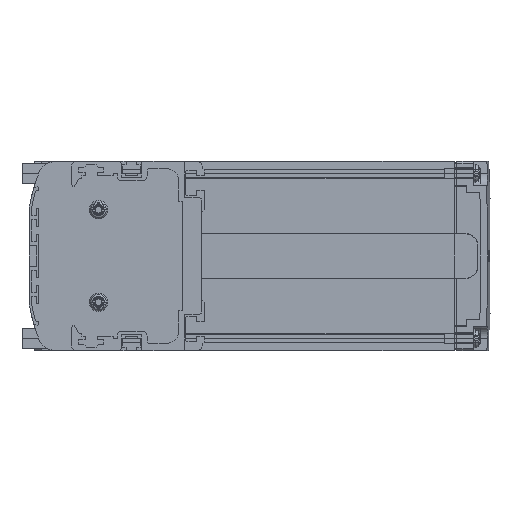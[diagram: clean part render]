
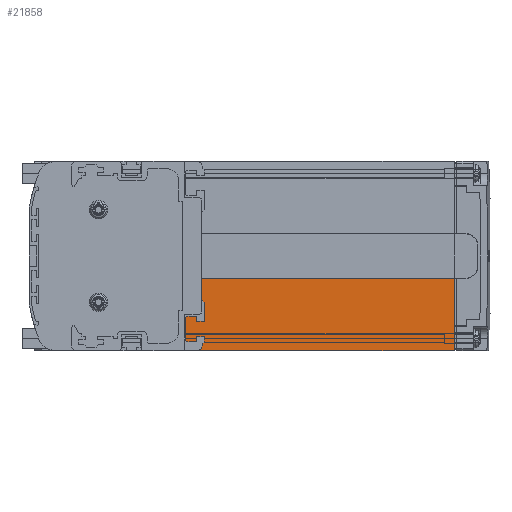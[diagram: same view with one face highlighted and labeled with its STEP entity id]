
A CAD part, left-side view. The second image highlights one B-rep face of the part: STEP entity #21858.
In plain terms, the highlighted planar face has unit normal (-1, 0, 0).
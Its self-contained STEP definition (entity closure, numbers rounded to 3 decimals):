
#81=DIRECTION('',(0.,0.,1.));
#82=VECTOR('',#81,29.9);
#83=CARTESIAN_POINT('',(3.,-103.,-39.));
#84=LINE('',#83,#82);
#327=DIRECTION('',(0.,1.,0.));
#328=VECTOR('',#327,112.);
#329=CARTESIAN_POINT('',(3.,-103.,-39.));
#330=LINE('',#329,#328);
#1208=DIRECTION('',(0.,1.,0.));
#1209=VECTOR('',#1208,104.);
#1210=CARTESIAN_POINT('',(3.,-103.,-9.1));
#1211=LINE('',#1210,#1209);
#3468=DIRECTION('',(0.,0.,1.));
#3469=VECTOR('',#3468,13.9);
#3470=CARTESIAN_POINT('',(3.,1.,-23.));
#3471=LINE('',#3470,#3469);
#4000=CARTESIAN_POINT('',(3.,2.,-23.));
#4001=DIRECTION('',(-1.,0.,0.));
#4002=DIRECTION('',(0.,0.,-1.));
#4003=AXIS2_PLACEMENT_3D('',#4000,#4001,#4002);
#4013=DIRECTION('',(0.,1.,0.));
#4014=VECTOR('',#4013,6.);
#4015=CARTESIAN_POINT('',(3.,2.,-24.));
#4016=LINE('',#4015,#4014);
#4017=DIRECTION('',(0.,0.,-1.));
#4018=VECTOR('',#4017,14.);
#4019=CARTESIAN_POINT('',(3.,8.,-24.));
#4020=LINE('',#4019,#4018);
#4025=CARTESIAN_POINT('',(3.,9.,-38.));
#4026=DIRECTION('',(-1.,0.,0.));
#4027=DIRECTION('',(0.,0.,-1.));
#4028=AXIS2_PLACEMENT_3D('',#4025,#4026,#4027);
#17510=CARTESIAN_POINT('',(3.,-103.,-39.));
#17511=VERTEX_POINT('',#17510);
#17512=CARTESIAN_POINT('',(3.,-103.,-9.1));
#17513=VERTEX_POINT('',#17512);
#21138=CARTESIAN_POINT('',(3.,1.,-23.));
#21139=CARTESIAN_POINT('',(3.,1.,-9.1));
#21140=VERTEX_POINT('',#21138);
#21141=VERTEX_POINT('',#21139);
#21186=CARTESIAN_POINT('',(3.,2.,-24.));
#21187=VERTEX_POINT('',#21186);
#21188=CARTESIAN_POINT('',(3.,8.,-24.));
#21189=VERTEX_POINT('',#21188);
#21190=CARTESIAN_POINT('',(3.,8.,-38.));
#21191=VERTEX_POINT('',#21190);
#21192=CARTESIAN_POINT('',(3.,9.,-39.));
#21193=VERTEX_POINT('',#21192);
#21835=CARTESIAN_POINT('',(3.,48.25,0.));
#21836=DIRECTION('',(1.,0.,0.));
#21837=DIRECTION('',(0.,1.,0.));
#21838=AXIS2_PLACEMENT_3D('',#21835,#21836,#21837);
#21839=PLANE('',#21838);
#21841=ORIENTED_EDGE('',*,*,#21840,.T.);
#21843=ORIENTED_EDGE('',*,*,#21842,.F.);
#21845=ORIENTED_EDGE('',*,*,#21844,.F.);
#21847=ORIENTED_EDGE('',*,*,#21846,.T.);
#21849=ORIENTED_EDGE('',*,*,#21848,.T.);
#21851=ORIENTED_EDGE('',*,*,#21850,.F.);
#21853=ORIENTED_EDGE('',*,*,#21852,.F.);
#21855=ORIENTED_EDGE('',*,*,#21854,.T.);
#21856=EDGE_LOOP('',(#21841,#21843,#21845,#21847,#21849,#21851,#21853,#21855));
#21857=FACE_OUTER_BOUND('',#21856,.F.);
#21858=ADVANCED_FACE('',(#21857),#21839,.F.);
#4004=CIRCLE('',#4003,1.);
#4029=CIRCLE('',#4028,1.);
#21840=EDGE_CURVE('',#21140,#21141,#3471,.T.);
#21842=EDGE_CURVE('',#17513,#21141,#1211,.T.);
#21844=EDGE_CURVE('',#17511,#17513,#84,.T.);
#21846=EDGE_CURVE('',#17511,#21193,#330,.T.);
#21848=EDGE_CURVE('',#21193,#21191,#4029,.T.);
#21850=EDGE_CURVE('',#21189,#21191,#4020,.T.);
#21852=EDGE_CURVE('',#21187,#21189,#4016,.T.);
#21854=EDGE_CURVE('',#21187,#21140,#4004,.T.);
